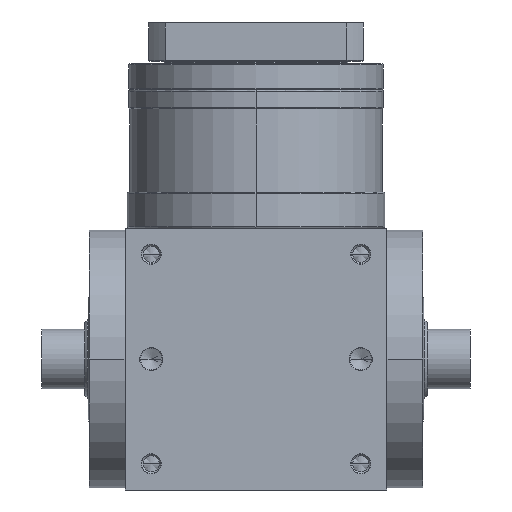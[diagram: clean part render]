
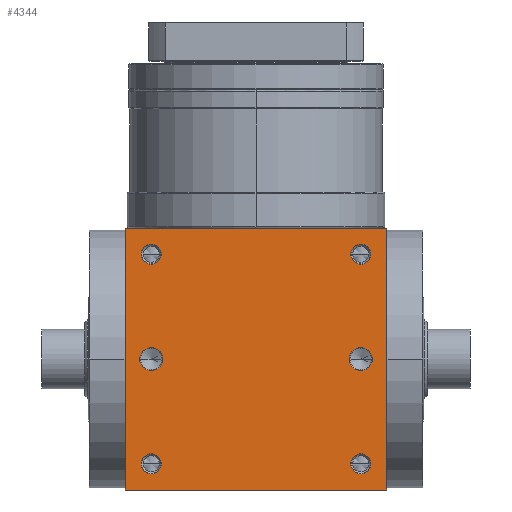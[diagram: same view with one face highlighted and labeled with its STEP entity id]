
A CAD part, front view. The second image highlights one B-rep face of the part: STEP entity #4344.
In plain terms, the highlighted planar face has unit normal (0, -1, 0).
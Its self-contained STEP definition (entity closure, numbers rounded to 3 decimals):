
#5=DIRECTION('',(1.,0.,0.));
#6=VECTOR('',#5,110.);
#7=CARTESIAN_POINT('',(-55.,-55.,-55.));
#8=LINE('',#7,#6);
#155=DIRECTION('',(0.,0.,1.));
#156=VECTOR('',#155,110.);
#157=CARTESIAN_POINT('',(55.,-55.,-55.));
#158=LINE('',#157,#156);
#209=DIRECTION('',(0.,0.,1.));
#210=VECTOR('',#209,110.);
#211=CARTESIAN_POINT('',(-55.,-55.,-55.));
#212=LINE('',#211,#210);
#213=CARTESIAN_POINT('',(44.,-55.,44.));
#214=DIRECTION('',(0.,1.,0.));
#215=DIRECTION('',(-1.,0.,0.));
#216=AXIS2_PLACEMENT_3D('',#213,#214,#215);
#218=CARTESIAN_POINT('',(44.,-55.,44.));
#219=DIRECTION('',(0.,1.,0.));
#220=DIRECTION('',(1.,0.,0.));
#221=AXIS2_PLACEMENT_3D('',#218,#219,#220);
#223=CARTESIAN_POINT('',(-44.,-55.,44.));
#224=DIRECTION('',(0.,1.,0.));
#225=DIRECTION('',(-1.,0.,0.));
#226=AXIS2_PLACEMENT_3D('',#223,#224,#225);
#228=CARTESIAN_POINT('',(-44.,-55.,44.));
#229=DIRECTION('',(0.,1.,0.));
#230=DIRECTION('',(1.,0.,0.));
#231=AXIS2_PLACEMENT_3D('',#228,#229,#230);
#233=CARTESIAN_POINT('',(44.,-55.,-44.));
#234=DIRECTION('',(0.,1.,0.));
#235=DIRECTION('',(-1.,0.,0.));
#236=AXIS2_PLACEMENT_3D('',#233,#234,#235);
#238=CARTESIAN_POINT('',(44.,-55.,-44.));
#239=DIRECTION('',(0.,1.,0.));
#240=DIRECTION('',(1.,0.,0.));
#241=AXIS2_PLACEMENT_3D('',#238,#239,#240);
#243=CARTESIAN_POINT('',(-44.,-55.,-44.));
#244=DIRECTION('',(0.,1.,0.));
#245=DIRECTION('',(-1.,0.,0.));
#246=AXIS2_PLACEMENT_3D('',#243,#244,#245);
#248=CARTESIAN_POINT('',(-44.,-55.,-44.));
#249=DIRECTION('',(0.,1.,0.));
#250=DIRECTION('',(1.,0.,0.));
#251=AXIS2_PLACEMENT_3D('',#248,#249,#250);
#253=CARTESIAN_POINT('',(-44.,-55.,0.));
#254=DIRECTION('',(0.,1.,0.));
#255=DIRECTION('',(1.,0.,0.));
#256=AXIS2_PLACEMENT_3D('',#253,#254,#255);
#258=CARTESIAN_POINT('',(-44.,-55.,0.));
#259=DIRECTION('',(0.,1.,0.));
#260=DIRECTION('',(-1.,0.,0.));
#261=AXIS2_PLACEMENT_3D('',#258,#259,#260);
#263=CARTESIAN_POINT('',(44.,-55.,0.));
#264=DIRECTION('',(0.,1.,0.));
#265=DIRECTION('',(1.,0.,0.));
#266=AXIS2_PLACEMENT_3D('',#263,#264,#265);
#268=CARTESIAN_POINT('',(44.,-55.,0.));
#269=DIRECTION('',(0.,1.,0.));
#270=DIRECTION('',(-1.,0.,0.));
#271=AXIS2_PLACEMENT_3D('',#268,#269,#270);
#285=DIRECTION('',(1.,0.,0.));
#286=VECTOR('',#285,110.);
#287=CARTESIAN_POINT('',(-55.,-55.,55.));
#288=LINE('',#287,#286);
#3502=CARTESIAN_POINT('',(-55.,-55.,-55.));
#3504=VERTEX_POINT('',#3502);
#3505=CARTESIAN_POINT('',(55.,-55.,-55.));
#3506=VERTEX_POINT('',#3505);
#3510=CARTESIAN_POINT('',(-55.,-55.,55.));
#3512=VERTEX_POINT('',#3510);
#3513=CARTESIAN_POINT('',(55.,-55.,55.));
#3514=VERTEX_POINT('',#3513);
#3669=CARTESIAN_POINT('',(39.8,-55.,44.));
#3670=CARTESIAN_POINT('',(48.2,-55.,44.));
#3671=VERTEX_POINT('',#3669);
#3672=VERTEX_POINT('',#3670);
#3677=CARTESIAN_POINT('',(-48.2,-55.,44.));
#3678=CARTESIAN_POINT('',(-39.8,-55.,44.));
#3679=VERTEX_POINT('',#3677);
#3680=VERTEX_POINT('',#3678);
#3685=CARTESIAN_POINT('',(39.8,-55.,-44.));
#3686=CARTESIAN_POINT('',(48.2,-55.,-44.));
#3687=VERTEX_POINT('',#3685);
#3688=VERTEX_POINT('',#3686);
#3693=CARTESIAN_POINT('',(-48.2,-55.,-44.));
#3694=CARTESIAN_POINT('',(-39.8,-55.,-44.));
#3695=VERTEX_POINT('',#3693);
#3696=VERTEX_POINT('',#3694);
#4017=CARTESIAN_POINT('',(-39.15,-55.,
0.));
#4018=CARTESIAN_POINT('',(-48.85,-55.,
0.));
#4019=VERTEX_POINT('',#4017);
#4020=VERTEX_POINT('',#4018);
#4025=CARTESIAN_POINT('',(48.85,-55.,0.));
#4026=CARTESIAN_POINT('',(39.15,-55.,0.));
#4027=VERTEX_POINT('',#4025);
#4028=VERTEX_POINT('',#4026);
#4296=CARTESIAN_POINT('',(-55.,-55.,-55.));
#4297=DIRECTION('',(0.,-1.,0.));
#4298=DIRECTION('',(1.,0.,0.));
#4299=AXIS2_PLACEMENT_3D('',#4296,#4297,#4298);
#4300=PLANE('',#4299);
#4301=ORIENTED_EDGE('',*,*,#4136,.F.);
#4302=ORIENTED_EDGE('',*,*,#4179,.T.);
#4304=ORIENTED_EDGE('',*,*,#4303,.T.);
#4305=ORIENTED_EDGE('',*,*,#4258,.F.);
#4306=EDGE_LOOP('',(#4301,#4302,#4304,#4305));
#4307=FACE_OUTER_BOUND('',#4306,.F.);
#4309=ORIENTED_EDGE('',*,*,#4308,.F.);
#4311=ORIENTED_EDGE('',*,*,#4310,.F.);
#4312=EDGE_LOOP('',(#4309,#4311));
#4313=FACE_BOUND('',#4312,.F.);
#4315=ORIENTED_EDGE('',*,*,#4314,.F.);
#4317=ORIENTED_EDGE('',*,*,#4316,.F.);
#4318=EDGE_LOOP('',(#4315,#4317));
#4319=FACE_BOUND('',#4318,.F.);
#4321=ORIENTED_EDGE('',*,*,#4320,.F.);
#4323=ORIENTED_EDGE('',*,*,#4322,.F.);
#4324=EDGE_LOOP('',(#4321,#4323));
#4325=FACE_BOUND('',#4324,.F.);
#4327=ORIENTED_EDGE('',*,*,#4326,.F.);
#4329=ORIENTED_EDGE('',*,*,#4328,.F.);
#4330=EDGE_LOOP('',(#4327,#4329));
#4331=FACE_BOUND('',#4330,.F.);
#4333=ORIENTED_EDGE('',*,*,#4332,.F.);
#4335=ORIENTED_EDGE('',*,*,#4334,.F.);
#4336=EDGE_LOOP('',(#4333,#4335));
#4337=FACE_BOUND('',#4336,.F.);
#4339=ORIENTED_EDGE('',*,*,#4338,.F.);
#4341=ORIENTED_EDGE('',*,*,#4340,.F.);
#4342=EDGE_LOOP('',(#4339,#4341));
#4343=FACE_BOUND('',#4342,.F.);
#4344=ADVANCED_FACE('',(#4307,#4313,#4319,#4325,#4331,#4337,#4343),#4300,.T.);
#217=CIRCLE('',#216,4.2);
#222=CIRCLE('',#221,4.2);
#227=CIRCLE('',#226,4.2);
#232=CIRCLE('',#231,4.2);
#237=CIRCLE('',#236,4.2);
#242=CIRCLE('',#241,4.2);
#247=CIRCLE('',#246,4.2);
#252=CIRCLE('',#251,4.2);
#257=CIRCLE('',#256,4.85);
#262=CIRCLE('',#261,4.85);
#267=CIRCLE('',#266,4.85);
#272=CIRCLE('',#271,4.85);
#4136=EDGE_CURVE('',#3504,#3506,#8,.T.);
#4179=EDGE_CURVE('',#3504,#3512,#212,.T.);
#4258=EDGE_CURVE('',#3506,#3514,#158,.T.);
#4303=EDGE_CURVE('',#3512,#3514,#288,.T.);
#4308=EDGE_CURVE('',#3671,#3672,#217,.T.);
#4310=EDGE_CURVE('',#3672,#3671,#222,.T.);
#4314=EDGE_CURVE('',#3679,#3680,#227,.T.);
#4316=EDGE_CURVE('',#3680,#3679,#232,.T.);
#4320=EDGE_CURVE('',#3687,#3688,#237,.T.);
#4322=EDGE_CURVE('',#3688,#3687,#242,.T.);
#4326=EDGE_CURVE('',#3695,#3696,#247,.T.);
#4328=EDGE_CURVE('',#3696,#3695,#252,.T.);
#4332=EDGE_CURVE('',#4019,#4020,#257,.T.);
#4334=EDGE_CURVE('',#4020,#4019,#262,.T.);
#4338=EDGE_CURVE('',#4027,#4028,#267,.T.);
#4340=EDGE_CURVE('',#4028,#4027,#272,.T.);
